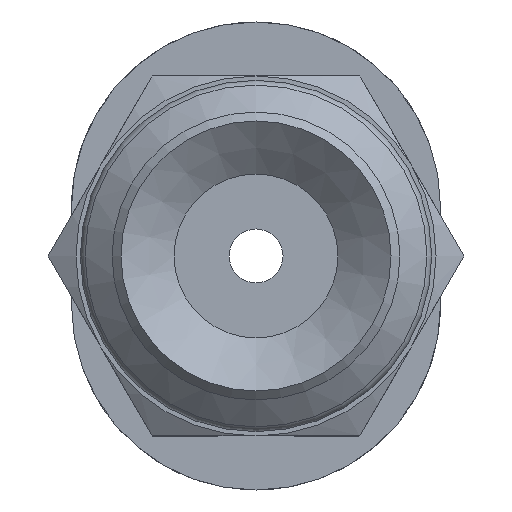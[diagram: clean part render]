
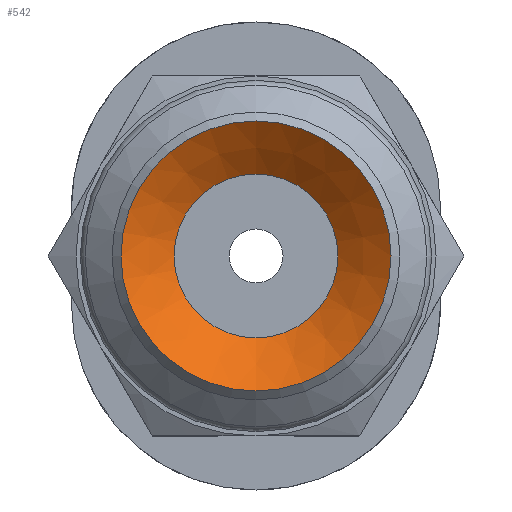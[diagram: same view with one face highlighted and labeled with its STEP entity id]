
A CAD part, front view. The second image highlights one B-rep face of the part: STEP entity #542.
In plain terms, the highlighted conical face has half-angle 52 degrees and reference radius 1.82 mm.
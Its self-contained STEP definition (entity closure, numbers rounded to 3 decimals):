
#542=ADVANCED_FACE('',(#815,#816),#817,.F.);
#815=FACE_BOUND('',#1179,.T.);
#816=FACE_OUTER_BOUND('',#1180,.T.);
#817=CONICAL_SURFACE('',#1181,1.82,0.908);
#1179=EDGE_LOOP('',(#2104));
#1180=EDGE_LOOP('',(#2105));
#1181=AXIS2_PLACEMENT_3D('',#2106,#2107,#2108);
#2104=ORIENTED_EDGE('',*,*,#2612,.F.);
#2105=ORIENTED_EDGE('',*,*,#2614,.T.);
#2106=CARTESIAN_POINT('',(0.0,6.889,0.0));
#2107=DIRECTION('',(-0.0,-1.0,0.));
#2108=DIRECTION('',(0.0,0.,-1.0));
#2612=EDGE_CURVE('',#2962,#2962,#2963,.T.);
#2614=EDGE_CURVE('',#2966,#2966,#2967,.T.);
#2962=VERTEX_POINT('',#3678);
#2963=CIRCLE('',#3679,1.82);
#2966=VERTEX_POINT('',#3682);
#2967=CIRCLE('',#3683,3.0);
#3678=CARTESIAN_POINT('',(0.0,6.889,-1.82));
#3679=AXIS2_PLACEMENT_3D('',#4348,#4349,#4350);
#3682=CARTESIAN_POINT('',(0.0,5.967,-3.0));
#3683=AXIS2_PLACEMENT_3D('',#4354,#4355,#4356);
#4348=CARTESIAN_POINT('',(0.0,6.889,0.0));
#4349=DIRECTION('',(0.0,-1.0,0.));
#4350=DIRECTION('',(0.0,0.,-1.0));
#4354=CARTESIAN_POINT('',(0.0,5.967,0.0));
#4355=DIRECTION('',(0.0,-1.0,0.));
#4356=DIRECTION('',(0.0,0.,-1.0));
